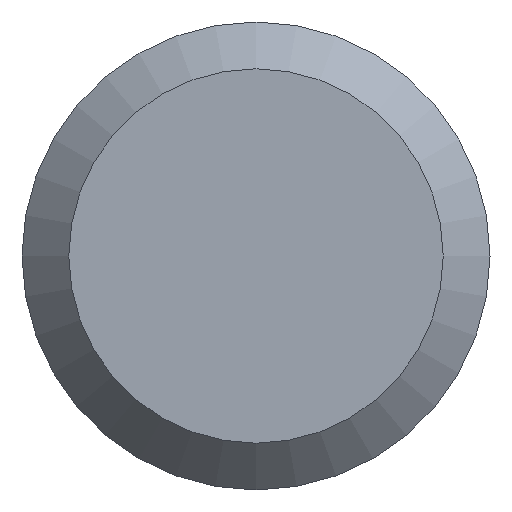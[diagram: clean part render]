
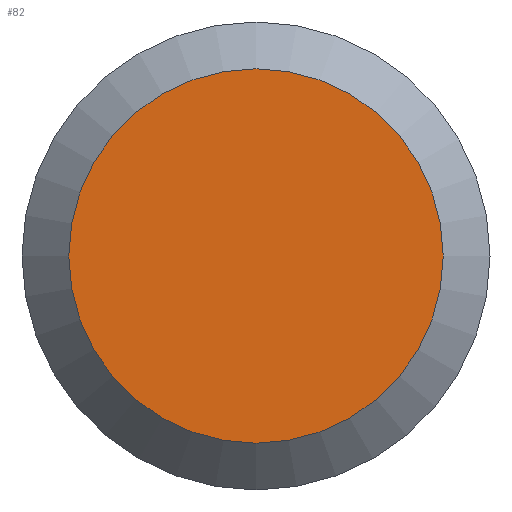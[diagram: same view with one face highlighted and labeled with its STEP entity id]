
A CAD part, left-side view. The second image highlights one B-rep face of the part: STEP entity #82.
In plain terms, the highlighted planar face has unit normal (-1, 0, 0).
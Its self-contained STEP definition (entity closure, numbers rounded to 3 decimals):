
#21 = AXIS2_PLACEMENT_3D ( 'NONE', #146, #159, #149 ) ;
#30 = CIRCLE ( 'NONE', #21, 2.54 ) ;
#39 = EDGE_LOOP ( 'NONE', ( #140 ) ) ;
#68 = AXIS2_PLACEMENT_3D ( 'NONE', #119, #202, #190 ) ;
#82 = ADVANCED_FACE ( 'NONE', ( #112 ), #88, .F. ) ;
#88 = PLANE ( 'NONE',  #68 ) ;
#106 = CARTESIAN_POINT ( 'NONE',  ( 0., 0., -2.54 ) ) ;
#111 = EDGE_CURVE ( 'NONE', #204, #204, #30, .T. ) ;
#112 = FACE_OUTER_BOUND ( 'NONE', #39, .T. ) ;
#119 = CARTESIAN_POINT ( 'NONE',  ( 0., 3.175, 0. ) ) ;
#140 = ORIENTED_EDGE ( 'NONE', *, *, #111, .T. ) ;
#146 = CARTESIAN_POINT ( 'NONE',  ( 0., 0., 0. ) ) ;
#149 = DIRECTION ( 'NONE',  ( 0., 0., -1. ) ) ;
#159 = DIRECTION ( 'NONE',  ( -1., 0., 0. ) ) ;
#190 = DIRECTION ( 'NONE',  ( 0., 0., -1. ) ) ;
#202 = DIRECTION ( 'NONE',  ( 1., 0., 0. ) ) ;
#204 = VERTEX_POINT ( 'NONE', #106 ) ;
